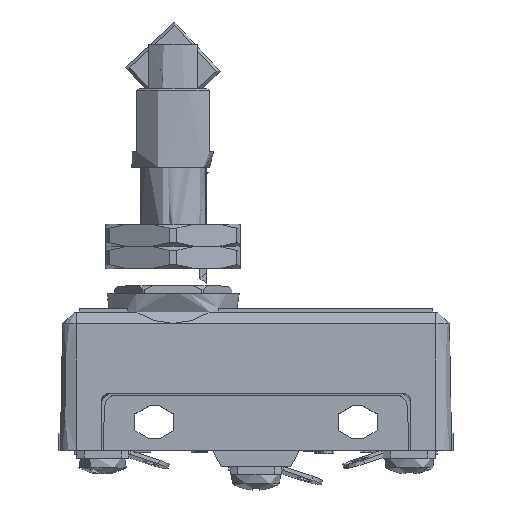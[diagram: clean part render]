
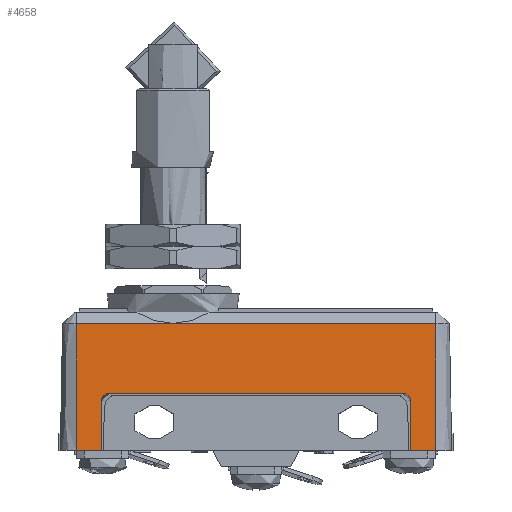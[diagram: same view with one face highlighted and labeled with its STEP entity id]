
A CAD part, top view. The second image highlights one B-rep face of the part: STEP entity #4658.
In plain terms, the highlighted planar face has unit normal (0, 0.018, 1).
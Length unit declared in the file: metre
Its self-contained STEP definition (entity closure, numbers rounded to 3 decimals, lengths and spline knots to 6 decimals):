
#2188=CARTESIAN_POINT('',(-0.023917,-0.001307,0.057941));
#2189=VERTEX_POINT('',#2188);
#2192=CARTESIAN_POINT('',(-0.023917,-0.007405,0.058047));
#2193=DIRECTION('',(0.,-1.,0.017));
#2194=VECTOR('',#2193,1.);
#2195=LINE('',#2192,#2194);
#2196=CARTESIAN_POINT('',(-0.023917,-0.007558,0.05805));
#2197=VERTEX_POINT('',#2196);
#2198=EDGE_CURVE('',#2189,#2197,#2195,.T.);
#2239=CARTESIAN_POINT('',(-0.022917,-0.000307,0.057923));
#2240=VERTEX_POINT('',#2239);
#2243=CARTESIAN_POINT('',(-0.022917,-0.001307,0.057941));
#2244=DIRECTION('',(0.,0.017,1.));
#2245=DIRECTION('',(1.,0.,0.));
#2246=AXIS2_PLACEMENT_3D('',#2243,#2244,#2245);
#2247=ELLIPSE('',#2246,0.001,0.001);
#2248=EDGE_CURVE('',#2240,#2189,#2247,.T.);
#2286=CARTESIAN_POINT('',(0.014183,-0.000307,0.057923));
#2287=VERTEX_POINT('',#2286);
#2290=CARTESIAN_POINT('',(0.014183,-0.000307,0.057923));
#2291=DIRECTION('',(-1.,0.,0.));
#2292=VECTOR('',#2291,1.);
#2293=LINE('',#2290,#2292);
#2294=EDGE_CURVE('',#2287,#2240,#2293,.T.);
#2328=CARTESIAN_POINT('',(0.015183,-0.001307,0.057941));
#2329=VERTEX_POINT('',#2328);
#2332=CARTESIAN_POINT('',(0.014183,-0.001307,0.057941));
#2333=DIRECTION('',(0.,0.017,1.));
#2334=DIRECTION('',(1.,0.,0.));
#2335=AXIS2_PLACEMENT_3D('',#2332,#2333,#2334);
#2336=ELLIPSE('',#2335,0.001,0.001);
#2337=EDGE_CURVE('',#2329,#2287,#2336,.T.);
#2638=CARTESIAN_POINT('',(0.018383,-0.007558,0.05805));
#2639=VERTEX_POINT('',#2638);
#2655=CARTESIAN_POINT('',(0.018383,0.008442,0.057771));
#2656=VERTEX_POINT('',#2655);
#2659=CARTESIAN_POINT('',(0.018383,-0.007558,0.05805));
#2660=DIRECTION('',(0.,-1.,0.017));
#2661=VECTOR('',#2660,1.);
#2662=LINE('',#2659,#2661);
#2663=EDGE_CURVE('',#2656,#2639,#2662,.T.);
#3446=CARTESIAN_POINT('',(-0.027117,0.008442,0.057771));
#3447=VERTEX_POINT('',#3446);
#3450=CARTESIAN_POINT('',(0.018383,0.008442,0.057771));
#3451=DIRECTION('',(-1.,0.,0.));
#3452=VECTOR('',#3451,1.);
#3453=LINE('',#3450,#3452);
#3454=EDGE_CURVE('',#2656,#3447,#3453,.T.);
#4589=CARTESIAN_POINT('',(-0.027117,-0.007558,0.05805));
#4590=DIRECTION('',(-1.,0.,0.));
#4591=VECTOR('',#4590,1.);
#4592=LINE('',#4589,#4591);
#4593=CARTESIAN_POINT('',(0.015183,-0.007558,0.05805));
#4594=VERTEX_POINT('',#4593);
#4595=EDGE_CURVE('',#2639,#4594,#4592,.T.);
#4614=CARTESIAN_POINT('',(0.015183,-0.007405,0.058047));
#4615=DIRECTION('',(0.,1.,-0.017));
#4616=VECTOR('',#4615,1.);
#4617=LINE('',#4614,#4616);
#4618=EDGE_CURVE('',#4594,#2329,#4617,.T.);
#4633=CARTESIAN_POINT('',(-0.027117,-0.007558,0.05805));
#4634=DIRECTION('',(0.,0.017,1.));
#4635=DIRECTION('',(0.,-1.,0.017));
#4636=AXIS2_PLACEMENT_3D('',#4633,#4634,#4635);
#4637=PLANE('',#4636);
#4638=ORIENTED_EDGE('',*,*,#4618,.F.);
#4639=ORIENTED_EDGE('',*,*,#4595,.F.);
#4640=ORIENTED_EDGE('',*,*,#2663,.F.);
#4641=ORIENTED_EDGE('',*,*,#3454,.T.);
#4642=CARTESIAN_POINT('',(-0.027117,-0.007558,0.05805));
#4643=DIRECTION('',(0.,-1.,0.017));
#4644=VECTOR('',#4643,1.);
#4645=LINE('',#4642,#4644);
#4646=CARTESIAN_POINT('',(-0.027117,-0.007558,0.05805));
#4647=VERTEX_POINT('',#4646);
#4648=EDGE_CURVE('',#3447,#4647,#4645,.T.);
#4649=ORIENTED_EDGE('',*,*,#4648,.T.);
#4650=EDGE_CURVE('',#2197,#4647,#4592,.T.);
#4651=ORIENTED_EDGE('',*,*,#4650,.F.);
#4652=ORIENTED_EDGE('',*,*,#2198,.F.);
#4653=ORIENTED_EDGE('',*,*,#2248,.F.);
#4654=ORIENTED_EDGE('',*,*,#2294,.F.);
#4655=ORIENTED_EDGE('',*,*,#2337,.F.);
#4656=EDGE_LOOP('',(#4638,#4639,#4640,#4641,#4649,#4651,#4652,#4653,#4654,#4655));
#4657=FACE_BOUND('',#4656,.T.);
#4658=ADVANCED_FACE('',(#4657),#4637,.T.);
